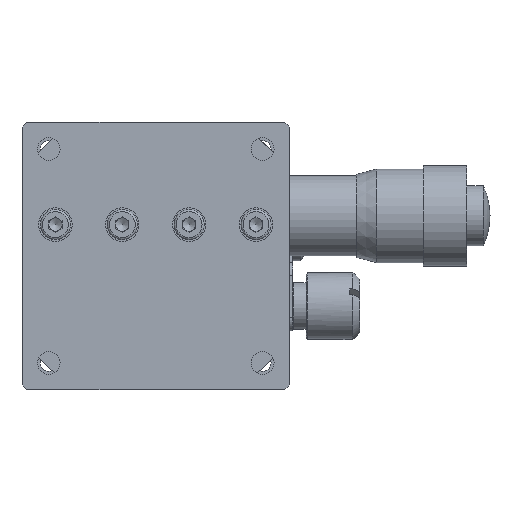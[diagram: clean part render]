
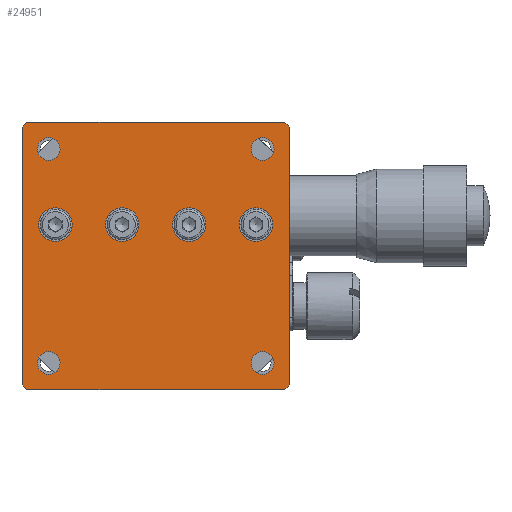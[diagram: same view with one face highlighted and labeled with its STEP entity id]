
A CAD part, front view. The second image highlights one B-rep face of the part: STEP entity #24951.
In plain terms, the highlighted planar face has unit normal (0, -1, 0).
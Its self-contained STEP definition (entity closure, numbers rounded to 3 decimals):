
#129 = CARTESIAN_POINT ( 'NONE',  ( 44.876, 29.066, 5.801 ) ) ;
#354 = VERTEX_POINT ( 'NONE', #10717 ) ;
#447 = EDGE_LOOP ( 'NONE', ( #19142 ) ) ;
#563 = CARTESIAN_POINT ( 'NONE',  ( 5.586, 29.066, 5.801 ) ) ;
#594 = PLANE ( 'NONE',  #13588 ) ;
#637 = CARTESIAN_POINT ( 'NONE',  ( 8.876, 29.066, 41.801 ) ) ;
#726 = FACE_BOUND ( 'NONE', #5518, .T. ) ;
#759 = DIRECTION ( 'NONE',  ( 0., 0., -1. ) ) ;
#800 = AXIS2_PLACEMENT_3D ( 'NONE', #21865, #12034, #2058 ) ;
#824 = ORIENTED_EDGE ( 'NONE', *, *, #5527, .T. ) ;
#1028 = EDGE_LOOP ( 'NONE', ( #21759 ) ) ;
#1410 = VERTEX_POINT ( 'NONE', #5331 ) ;
#1445 = VERTEX_POINT ( 'NONE', #563 ) ;
#1476 = DIRECTION ( 'NONE',  ( 0.707, 0., -0.707 ) ) ;
#1585 = EDGE_CURVE ( 'NONE', #1445, #7329, #15584, .T. ) ;
#1783 = CARTESIAN_POINT ( 'NONE',  ( 44.876, 29.066, 6.511 ) ) ;
#1898 = EDGE_CURVE ( 'NONE', #6528, #6528, #7413, .T. ) ;
#1965 = LINE ( 'NONE', #129, #24896 ) ;
#1982 = DIRECTION ( 'NONE',  ( 0., 0., 1. ) ) ;
#2022 = CARTESIAN_POINT ( 'NONE',  ( 9.876, 29.066, 28.001 ) ) ;
#2058 = DIRECTION ( 'NONE',  ( 0., 0., -1. ) ) ;
#2345 = DIRECTION ( 'NONE',  ( -1., 0., 0. ) ) ;
#2549 = FACE_BOUND ( 'NONE', #14591, .T. ) ;
#2631 = ORIENTED_EDGE ( 'NONE', *, *, #2869, .T. ) ;
#2869 = EDGE_CURVE ( 'NONE', #22673, #23146, #13408, .T. ) ;
#3392 = DIRECTION ( 'NONE',  ( 0., 1., 0. ) ) ;
#3438 = CARTESIAN_POINT ( 'NONE',  ( 4.876, 29.066, 45.091 ) ) ;
#3627 = EDGE_CURVE ( 'NONE', #1410, #1410, #6522, .T. ) ;
#3695 = ORIENTED_EDGE ( 'NONE', *, *, #22325, .T. ) ;
#3826 = LINE ( 'NONE', #13418, #15081 ) ;
#4317 = CARTESIAN_POINT ( 'NONE',  ( 44.876, 29.066, 45.801 ) ) ;
#4683 = CARTESIAN_POINT ( 'NONE',  ( 39.876, 29.066, 30.501 ) ) ;
#4705 = VERTEX_POINT ( 'NONE', #3438 ) ;
#4834 = VERTEX_POINT ( 'NONE', #9873 ) ;
#5331 = CARTESIAN_POINT ( 'NONE',  ( 40.876, 29.066, 11.501 ) ) ;
#5442 = EDGE_CURVE ( 'NONE', #14427, #22673, #1965, .T. ) ;
#5518 = EDGE_LOOP ( 'NONE', ( #7920 ) ) ;
#5527 = EDGE_CURVE ( 'NONE', #23146, #19888, #14296, .T. ) ;
#5986 = EDGE_CURVE ( 'NONE', #7329, #14427, #17351, .T. ) ;
#6411 = CARTESIAN_POINT ( 'NONE',  ( 44.876, 29.066, 45.091 ) ) ;
#6522 = CIRCLE ( 'NONE', #16995, 1.7 ) ;
#6528 = VERTEX_POINT ( 'NONE', #15058 ) ;
#6731 = VERTEX_POINT ( 'NONE', #14491 ) ;
#6851 = EDGE_LOOP ( 'NONE', ( #25825, #16735, #24608, #2631, #824, #20683, #3695, #25118 ) ) ;
#7233 = ORIENTED_EDGE ( 'NONE', *, *, #14915, .F. ) ;
#7329 = VERTEX_POINT ( 'NONE', #11228 ) ;
#7413 = CIRCLE ( 'NONE', #16619, 2.5 ) ;
#7458 = DIRECTION ( 'NONE',  ( 0., 0., 1. ) ) ;
#7920 = ORIENTED_EDGE ( 'NONE', *, *, #17988, .T. ) ;
#7922 = VERTEX_POINT ( 'NONE', #2022 ) ;
#7997 = LINE ( 'NONE', #16259, #8478 ) ;
#8478 = VECTOR ( 'NONE', #13658, 1000. ) ;
#8729 = DIRECTION ( 'NONE',  ( 0., 0., 1. ) ) ;
#9080 = VERTEX_POINT ( 'NONE', #15252 ) ;
#9242 = VERTEX_POINT ( 'NONE', #13317 ) ;
#9438 = EDGE_LOOP ( 'NONE', ( #20110 ) ) ;
#9873 = CARTESIAN_POINT ( 'NONE',  ( 4.876, 29.066, 6.511 ) ) ;
#10426 = FACE_BOUND ( 'NONE', #447, .T. ) ;
#10556 = FACE_OUTER_BOUND ( 'NONE', #6851, .T. ) ;
#10622 = VECTOR ( 'NONE', #13688, 1000. ) ;
#10692 = FACE_BOUND ( 'NONE', #21333, .T. ) ;
#10717 = CARTESIAN_POINT ( 'NONE',  ( 8.876, 29.066, 11.501 ) ) ;
#10797 = AXIS2_PLACEMENT_3D ( 'NONE', #637, #23751, #1982 ) ;
#10809 = VERTEX_POINT ( 'NONE', #12382 ) ;
#10867 = VECTOR ( 'NONE', #21094, 1000. ) ;
#11228 = CARTESIAN_POINT ( 'NONE',  ( 44.166, 29.066, 5.801 ) ) ;
#11802 = CARTESIAN_POINT ( 'NONE',  ( 8.876, 29.066, 9.801 ) ) ;
#12034 = DIRECTION ( 'NONE',  ( 0., -1., 0. ) ) ;
#12382 = CARTESIAN_POINT ( 'NONE',  ( 29.876, 29.066, 28.001 ) ) ;
#12528 = FACE_BOUND ( 'NONE', #1028, .T. ) ;
#13014 = CIRCLE ( 'NONE', #20124, 1.7 ) ;
#13205 = CIRCLE ( 'NONE', #25338, 1.7 ) ;
#13272 = EDGE_CURVE ( 'NONE', #9242, #9242, #22937, .T. ) ;
#13317 = CARTESIAN_POINT ( 'NONE',  ( 8.876, 29.066, 43.501 ) ) ;
#13383 = CIRCLE ( 'NONE', #800, 2.5 ) ;
#13408 = LINE ( 'NONE', #25330, #23654 ) ;
#13418 = CARTESIAN_POINT ( 'NONE',  ( -14.769, 29.066, 26.156 ) ) ;
#13493 = CARTESIAN_POINT ( 'NONE',  ( 4.876, 29.066, 5.801 ) ) ;
#13525 = CARTESIAN_POINT ( 'NONE',  ( 4.876, 29.066, 45.801 ) ) ;
#13588 = AXIS2_PLACEMENT_3D ( 'NONE', #16583, #18171, #24585 ) ;
#13644 = EDGE_LOOP ( 'NONE', ( #7233 ) ) ;
#13658 = DIRECTION ( 'NONE',  ( -0.707, 0., -0.707 ) ) ;
#13688 = DIRECTION ( 'NONE',  ( 0.707, 0., 0.707 ) ) ;
#13788 = DIRECTION ( 'NONE',  ( 0., 0., 1. ) ) ;
#14049 = DIRECTION ( 'NONE',  ( 0., 0., 1. ) ) ;
#14283 = DIRECTION ( 'NONE',  ( 0., -1., 0. ) ) ;
#14296 = LINE ( 'NONE', #4317, #14857 ) ;
#14427 = VERTEX_POINT ( 'NONE', #1783 ) ;
#14491 = CARTESIAN_POINT ( 'NONE',  ( 19.876, 29.066, 28.001 ) ) ;
#14591 = EDGE_LOOP ( 'NONE', ( #17773 ) ) ;
#14857 = VECTOR ( 'NONE', #2345, 1000. ) ;
#14915 = EDGE_CURVE ( 'NONE', #7922, #7922, #24266, .T. ) ;
#14986 = DIRECTION ( 'NONE',  ( -0.707, 0., 0.707 ) ) ;
#15058 = CARTESIAN_POINT ( 'NONE',  ( 39.876, 29.066, 28.001 ) ) ;
#15081 = VECTOR ( 'NONE', #1476, 1000. ) ;
#15252 = CARTESIAN_POINT ( 'NONE',  ( 40.876, 29.066, 43.501 ) ) ;
#15515 = CARTESIAN_POINT ( 'NONE',  ( 44.521, 29.066, 6.156 ) ) ;
#15584 = LINE ( 'NONE', #13493, #10867 ) ;
#16088 = EDGE_CURVE ( 'NONE', #4834, #1445, #3826, .T. ) ;
#16259 = CARTESIAN_POINT ( 'NONE',  ( 5.231, 29.066, 45.446 ) ) ;
#16361 = DIRECTION ( 'NONE',  ( 0., 0., -1. ) ) ;
#16412 = EDGE_CURVE ( 'NONE', #10809, #10809, #13383, .T. ) ;
#16493 = CARTESIAN_POINT ( 'NONE',  ( 9.876, 29.066, 30.501 ) ) ;
#16583 = CARTESIAN_POINT ( 'NONE',  ( 4.876, 29.066, 45.801 ) ) ;
#16619 = AXIS2_PLACEMENT_3D ( 'NONE', #4683, #22656, #759 ) ;
#16735 = ORIENTED_EDGE ( 'NONE', *, *, #5986, .T. ) ;
#16761 = AXIS2_PLACEMENT_3D ( 'NONE', #16931, #21244, #22963 ) ;
#16931 = CARTESIAN_POINT ( 'NONE',  ( 19.876, 29.066, 30.501 ) ) ;
#16995 = AXIS2_PLACEMENT_3D ( 'NONE', #21368, #3392, #8729 ) ;
#17351 = LINE ( 'NONE', #15515, #10622 ) ;
#17531 = EDGE_CURVE ( 'NONE', #6731, #6731, #23872, .T. ) ;
#17773 = ORIENTED_EDGE ( 'NONE', *, *, #25777, .T. ) ;
#17854 = EDGE_LOOP ( 'NONE', ( #22408 ) ) ;
#17988 = EDGE_CURVE ( 'NONE', #9080, #9080, #13014, .T. ) ;
#18171 = DIRECTION ( 'NONE',  ( 0., -1., 0. ) ) ;
#18561 = CARTESIAN_POINT ( 'NONE',  ( 5.586, 29.066, 45.801 ) ) ;
#18680 = FACE_BOUND ( 'NONE', #17854, .T. ) ;
#19142 = ORIENTED_EDGE ( 'NONE', *, *, #3627, .T. ) ;
#19152 = LINE ( 'NONE', #13525, #23953 ) ;
#19806 = DIRECTION ( 'NONE',  ( 0., 1., 0. ) ) ;
#19888 = VERTEX_POINT ( 'NONE', #18561 ) ;
#20068 = AXIS2_PLACEMENT_3D ( 'NONE', #16493, #14283, #16361 ) ;
#20110 = ORIENTED_EDGE ( 'NONE', *, *, #13272, .T. ) ;
#20124 = AXIS2_PLACEMENT_3D ( 'NONE', #25840, #19806, #13788 ) ;
#20683 = ORIENTED_EDGE ( 'NONE', *, *, #23700, .T. ) ;
#21094 = DIRECTION ( 'NONE',  ( 1., 0., 0. ) ) ;
#21111 = ORIENTED_EDGE ( 'NONE', *, *, #1898, .F. ) ;
#21244 = DIRECTION ( 'NONE',  ( 0., -1., 0. ) ) ;
#21333 = EDGE_LOOP ( 'NONE', ( #21111 ) ) ;
#21368 = CARTESIAN_POINT ( 'NONE',  ( 40.876, 29.066, 9.801 ) ) ;
#21500 = DIRECTION ( 'NONE',  ( 0., 1., 0. ) ) ;
#21759 = ORIENTED_EDGE ( 'NONE', *, *, #17531, .F. ) ;
#21865 = CARTESIAN_POINT ( 'NONE',  ( 29.876, 29.066, 30.501 ) ) ;
#22102 = FACE_BOUND ( 'NONE', #13644, .T. ) ;
#22128 = CARTESIAN_POINT ( 'NONE',  ( 44.166, 29.066, 45.801 ) ) ;
#22325 = EDGE_CURVE ( 'NONE', #4705, #4834, #19152, .T. ) ;
#22408 = ORIENTED_EDGE ( 'NONE', *, *, #16412, .F. ) ;
#22656 = DIRECTION ( 'NONE',  ( 0., -1., 0. ) ) ;
#22673 = VERTEX_POINT ( 'NONE', #6411 ) ;
#22937 = CIRCLE ( 'NONE', #10797, 1.7 ) ;
#22963 = DIRECTION ( 'NONE',  ( 0., 0., -1. ) ) ;
#22968 = DIRECTION ( 'NONE',  ( 0., 0., -1. ) ) ;
#23146 = VERTEX_POINT ( 'NONE', #22128 ) ;
#23654 = VECTOR ( 'NONE', #14986, 1000. ) ;
#23700 = EDGE_CURVE ( 'NONE', #19888, #4705, #7997, .T. ) ;
#23751 = DIRECTION ( 'NONE',  ( 0., 1., 0. ) ) ;
#23872 = CIRCLE ( 'NONE', #16761, 2.5 ) ;
#23953 = VECTOR ( 'NONE', #22968, 1000. ) ;
#24069 = FACE_BOUND ( 'NONE', #9438, .T. ) ;
#24266 = CIRCLE ( 'NONE', #20068, 2.5 ) ;
#24585 = DIRECTION ( 'NONE',  ( 0., 0., -1. ) ) ;
#24608 = ORIENTED_EDGE ( 'NONE', *, *, #5442, .T. ) ;
#24896 = VECTOR ( 'NONE', #14049, 1000. ) ;
#24951 = ADVANCED_FACE ( 'NONE', ( #10692, #18680, #12528, #22102, #726, #24069, #2549, #10426, #10556 ), #594, .T. ) ;
#25118 = ORIENTED_EDGE ( 'NONE', *, *, #16088, .T. ) ;
#25330 = CARTESIAN_POINT ( 'NONE',  ( 24.521, 29.066, 65.446 ) ) ;
#25338 = AXIS2_PLACEMENT_3D ( 'NONE', #11802, #21500, #7458 ) ;
#25777 = EDGE_CURVE ( 'NONE', #354, #354, #13205, .T. ) ;
#25825 = ORIENTED_EDGE ( 'NONE', *, *, #1585, .T. ) ;
#25840 = CARTESIAN_POINT ( 'NONE',  ( 40.876, 29.066, 41.801 ) ) ;
